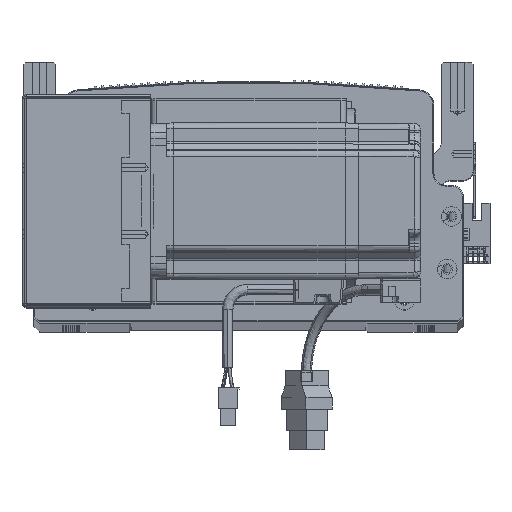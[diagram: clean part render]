
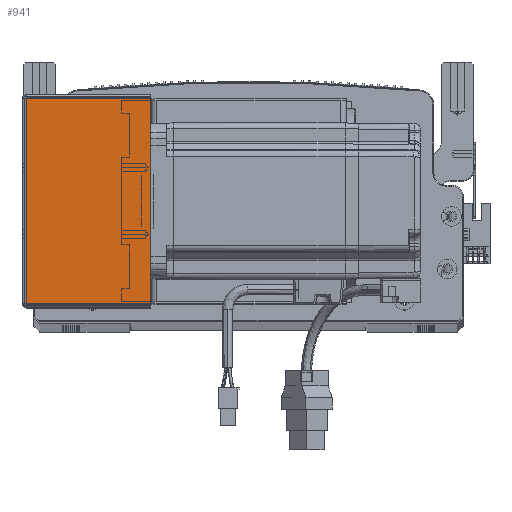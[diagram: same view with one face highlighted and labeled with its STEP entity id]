
A CAD part, top view. The second image highlights one B-rep face of the part: STEP entity #941.
In plain terms, the highlighted planar face has unit normal (0, 0, 1) as drawn and (0, 0, -1) by its records, which use the part's own axes.
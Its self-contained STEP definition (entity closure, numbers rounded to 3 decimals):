
#941 = ADVANCED_FACE ( 'NONE', ( #4951 ), #73754, .F. ) ;
#3253 = VERTEX_POINT ( 'NONE', #57853 ) ;
#3550 = CARTESIAN_POINT ( 'NONE',  ( 64.5, 0., -205.5 ) ) ;
#4951 = FACE_OUTER_BOUND ( 'NONE', #45650, .T. ) ;
#8787 = EDGE_CURVE ( 'NONE', #87526, #3253, #23284, .T. ) ;
#12742 = CARTESIAN_POINT ( 'NONE',  ( 64.5, 105.293, -205.5 ) ) ;
#17003 = AXIS2_PLACEMENT_3D ( 'NONE', #51287, #50962, #44237 ) ;
#23284 = LINE ( 'NONE', #57004, #66952 ) ;
#27086 = CARTESIAN_POINT ( 'NONE',  ( 0.737, 0., -205.5 ) ) ;
#27968 = VERTEX_POINT ( 'NONE', #33154 ) ;
#28018 = DIRECTION ( 'NONE',  ( 0., -1., 0. ) ) ;
#32039 = VECTOR ( 'NONE', #43410, 1000. ) ;
#33154 = CARTESIAN_POINT ( 'NONE',  ( 0.737, 105.293, -205.5 ) ) ;
#33227 = ORIENTED_EDGE ( 'NONE', *, *, #59984, .T. ) ;
#35202 = EDGE_CURVE ( 'NONE', #27968, #65681, #85953, .T. ) ;
#36509 = VECTOR ( 'NONE', #28018, 1000. ) ;
#38333 = CARTESIAN_POINT ( 'NONE',  ( 0.737, 0.707, -205.5 ) ) ;
#38836 = LINE ( 'NONE', #27086, #36509 ) ;
#43410 = DIRECTION ( 'NONE',  ( 1., 0., 0. ) ) ;
#44237 = DIRECTION ( 'NONE',  ( 1., 0., 0. ) ) ;
#45650 = EDGE_LOOP ( 'NONE', ( #66209, #77255, #33227, #68264 ) ) ;
#46603 = DIRECTION ( 'NONE',  ( 0., -1., 0. ) ) ;
#50962 = DIRECTION ( 'NONE',  ( 0., 0., 1. ) ) ;
#51287 = CARTESIAN_POINT ( 'NONE',  ( 0., 0., -205.5 ) ) ;
#57004 = CARTESIAN_POINT ( 'NONE',  ( 0., 0.707, -205.5 ) ) ;
#57853 = CARTESIAN_POINT ( 'NONE',  ( 64.5, 0.707, -205.5 ) ) ;
#57998 = VECTOR ( 'NONE', #46603, 1000. ) ;
#59984 = EDGE_CURVE ( 'NONE', #65681, #3253, #93519, .T. ) ;
#65681 = VERTEX_POINT ( 'NONE', #12742 ) ;
#66209 = ORIENTED_EDGE ( 'NONE', *, *, #87854, .F. ) ;
#66952 = VECTOR ( 'NONE', #79158, 1000. ) ;
#68264 = ORIENTED_EDGE ( 'NONE', *, *, #8787, .F. ) ;
#73246 = CARTESIAN_POINT ( 'NONE',  ( 0., 105.293, -205.5 ) ) ;
#73754 = PLANE ( 'NONE',  #17003 ) ;
#77255 = ORIENTED_EDGE ( 'NONE', *, *, #35202, .T. ) ;
#79158 = DIRECTION ( 'NONE',  ( 1., 0., 0. ) ) ;
#85953 = LINE ( 'NONE', #73246, #32039 ) ;
#87526 = VERTEX_POINT ( 'NONE', #38333 ) ;
#87854 = EDGE_CURVE ( 'NONE', #27968, #87526, #38836, .T. ) ;
#93519 = LINE ( 'NONE', #3550, #57998 ) ;
